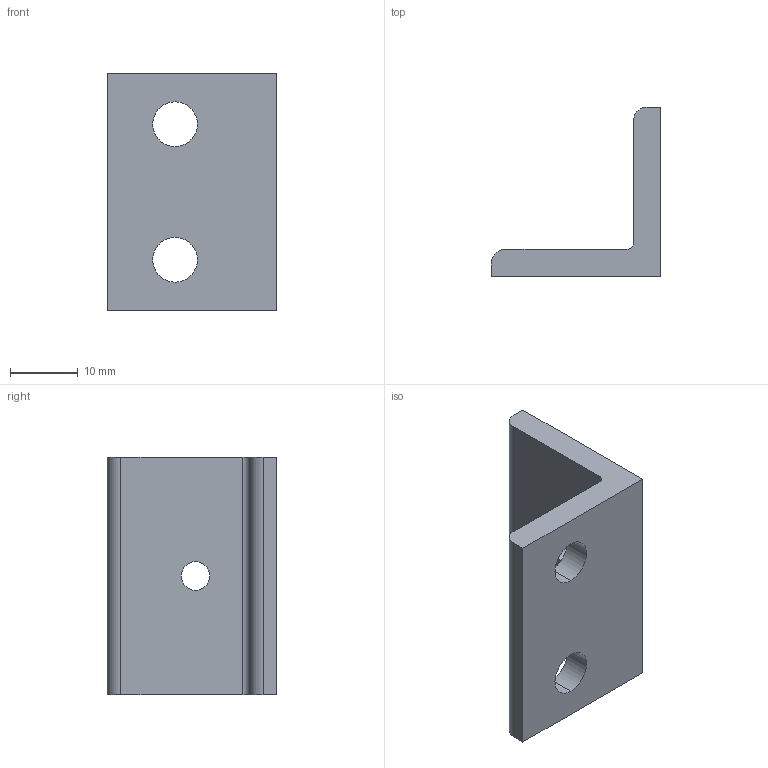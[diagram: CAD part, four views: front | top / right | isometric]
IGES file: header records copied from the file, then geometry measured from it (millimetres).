
Start section: SolidWorks IGES file using analytic representation for surfaces
Global section: file name: C:\Documents and Settings\Administrator\デスクトップ\指定保存後4回目\SolidWorks\SF\SF40・45\Parts\SFJ-K04.IGS,41HSolidWorks; native system: 2006 by SolidWorks Corporation; preprocessor: SolidWorks 2006 by SolidWorks Corporation; author: Administrator; date: 061218.131157; units: millimetre
Bounding box: 25 x 25 x 35 mm (x, y, z)
Volume: 6058.3 mm3; surface area: 3844 mm2
Topology: 1 solids, 1 shells, 17 faces, 45 edges, 30 vertices
Faces by surface type: revolution 9, plane 8
